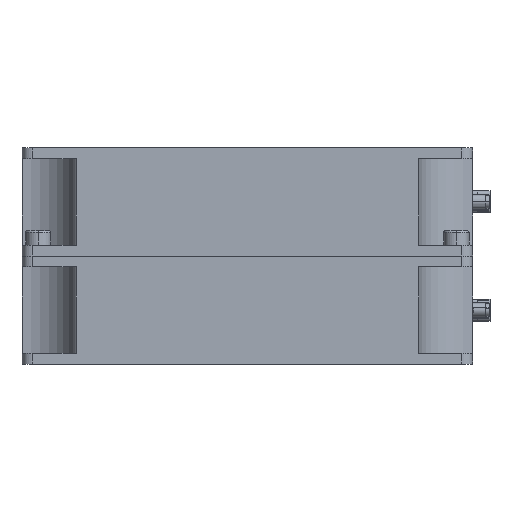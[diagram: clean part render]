
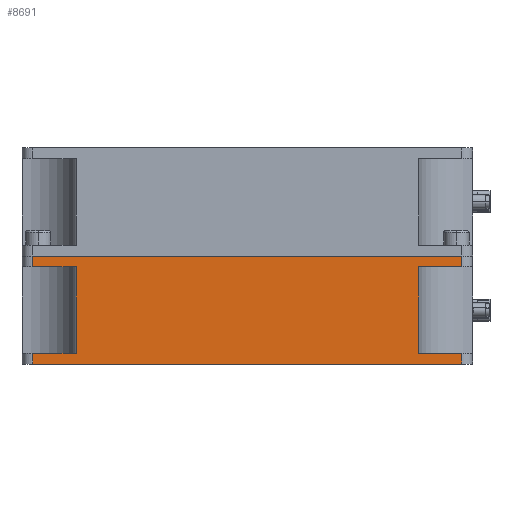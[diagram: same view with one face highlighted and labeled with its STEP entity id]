
A CAD part, left-side view. The second image highlights one B-rep face of the part: STEP entity #8691.
In plain terms, the highlighted planar face has unit normal (-1, 0, 0).
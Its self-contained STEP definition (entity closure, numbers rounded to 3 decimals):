
#487 = CARTESIAN_POINT ( 'NONE',  ( -103.713, 72.841, 212. ) ) ;
#632 = LINE ( 'NONE', #24099, #50106 ) ;
#804 = VERTEX_POINT ( 'NONE', #21298 ) ;
#1732 = DIRECTION ( 'NONE',  ( 0., 0., 1. ) ) ;
#2311 = VERTEX_POINT ( 'NONE', #12026 ) ;
#3049 = VECTOR ( 'NONE', #21292, 1000. ) ;
#5161 = VECTOR ( 'NONE', #10141, 1000. ) ;
#5215 = DIRECTION ( 'NONE',  ( 0., 0., 1. ) ) ;
#5507 = DIRECTION ( 'NONE',  ( 0., 0., -1. ) ) ;
#5645 = EDGE_CURVE ( 'NONE', #22236, #37799, #22446, .T. ) ;
#5823 = VERTEX_POINT ( 'NONE', #45613 ) ;
#6645 = LINE ( 'NONE', #59125, #44903 ) ;
#7604 = EDGE_CURVE ( 'NONE', #44836, #18496, #29730, .T. ) ;
#7877 = CARTESIAN_POINT ( 'NONE',  ( -103.713, 72.841, 185. ) ) ;
#8372 = DIRECTION ( 'NONE',  ( 0., 0., 1. ) ) ;
#8603 = AXIS2_PLACEMENT_3D ( 'NONE', #32708, #42376, #13643 ) ;
#8691 = ADVANCED_FACE ( 'NONE', ( #16852 ), #61396, .F. ) ;
#8920 = EDGE_CURVE ( 'NONE', #12915, #804, #44609, .T. ) ;
#9696 = VECTOR ( 'NONE', #20241, 1000. ) ;
#10141 = DIRECTION ( 'NONE',  ( 0., -1., 0. ) ) ;
#10238 = EDGE_CURVE ( 'NONE', #57442, #44836, #28712, .T. ) ;
#12026 = CARTESIAN_POINT ( 'NONE',  ( -103.713, -49.159, 212. ) ) ;
#12915 = VERTEX_POINT ( 'NONE', #38896 ) ;
#13643 = DIRECTION ( 'NONE',  ( 0., 0., -1. ) ) ;
#13760 = EDGE_CURVE ( 'NONE', #5823, #52613, #35132, .T. ) ;
#15826 = LINE ( 'NONE', #25911, #3049 ) ;
#16147 = VECTOR ( 'NONE', #8372, 1000. ) ;
#16331 = ORIENTED_EDGE ( 'NONE', *, *, #40210, .T. ) ;
#16852 = FACE_OUTER_BOUND ( 'NONE', #45323, .T. ) ;
#16970 = VECTOR ( 'NONE', #55555, 1000. ) ;
#17752 = VERTEX_POINT ( 'NONE', #54553 ) ;
#18461 = ORIENTED_EDGE ( 'NONE', *, *, #7604, .T. ) ;
#18496 = VERTEX_POINT ( 'NONE', #32888 ) ;
#19345 = VECTOR ( 'NONE', #61726, 1000. ) ;
#20241 = DIRECTION ( 'NONE',  ( 0., 1., 0. ) ) ;
#21292 = DIRECTION ( 'NONE',  ( 0., 0., -1. ) ) ;
#21298 = CARTESIAN_POINT ( 'NONE',  ( -103.713, 57.841, 212. ) ) ;
#21434 = LINE ( 'NONE', #7877, #24459 ) ;
#22236 = VERTEX_POINT ( 'NONE', #39354 ) ;
#22446 = LINE ( 'NONE', #58381, #9696 ) ;
#24099 = CARTESIAN_POINT ( 'NONE',  ( -103.713, -37.159, 200. ) ) ;
#24459 = VECTOR ( 'NONE', #36610, 1000. ) ;
#25911 = CARTESIAN_POINT ( 'NONE',  ( -103.713, 57.841, 200. ) ) ;
#26443 = EDGE_CURVE ( 'NONE', #804, #57442, #15826, .T. ) ;
#26946 = CARTESIAN_POINT ( 'NONE',  ( -103.713, -49.159, 215. ) ) ;
#27994 = CARTESIAN_POINT ( 'NONE',  ( -103.713, 72.841, 215. ) ) ;
#28299 = EDGE_CURVE ( 'NONE', #5823, #12915, #32965, .T. ) ;
#28712 = LINE ( 'NONE', #51604, #38465 ) ;
#28759 = ORIENTED_EDGE ( 'NONE', *, *, #51992, .T. ) ;
#29150 = LINE ( 'NONE', #487, #5161 ) ;
#29681 = ORIENTED_EDGE ( 'NONE', *, *, #61647, .T. ) ;
#29730 = LINE ( 'NONE', #50718, #16970 ) ;
#30383 = LINE ( 'NONE', #55955, #16147 ) ;
#30736 = ORIENTED_EDGE ( 'NONE', *, *, #10238, .T. ) ;
#32061 = ORIENTED_EDGE ( 'NONE', *, *, #54002, .T. ) ;
#32708 = CARTESIAN_POINT ( 'NONE',  ( -103.713, 72.841, 215. ) ) ;
#32888 = CARTESIAN_POINT ( 'NONE',  ( -103.713, 69.841, 185. ) ) ;
#32965 = LINE ( 'NONE', #39055, #44230 ) ;
#33229 = ORIENTED_EDGE ( 'NONE', *, *, #8920, .T. ) ;
#35132 = LINE ( 'NONE', #27994, #19345 ) ;
#35594 = DIRECTION ( 'NONE',  ( 0., -1., 0. ) ) ;
#36262 = ORIENTED_EDGE ( 'NONE', *, *, #26443, .T. ) ;
#36610 = DIRECTION ( 'NONE',  ( 0., -1., 0. ) ) ;
#37799 = VERTEX_POINT ( 'NONE', #61498 ) ;
#38465 = VECTOR ( 'NONE', #46810, 1000. ) ;
#38896 = CARTESIAN_POINT ( 'NONE',  ( -103.713, 69.841, 212. ) ) ;
#39055 = CARTESIAN_POINT ( 'NONE',  ( -103.713, 69.841, 215. ) ) ;
#39354 = CARTESIAN_POINT ( 'NONE',  ( -103.713, -49.159, 188. ) ) ;
#40210 = EDGE_CURVE ( 'NONE', #37799, #17752, #632, .T. ) ;
#42376 = DIRECTION ( 'NONE',  ( 1., 0., 0. ) ) ;
#44230 = VECTOR ( 'NONE', #5507, 1000. ) ;
#44609 = LINE ( 'NONE', #49624, #57324 ) ;
#44836 = VERTEX_POINT ( 'NONE', #45452 ) ;
#44903 = VECTOR ( 'NONE', #1732, 1000. ) ;
#45323 = EDGE_LOOP ( 'NONE', ( #32061, #59968, #47676, #16331, #29681, #28759, #50085, #48260, #33229, #36262, #30736, #18461 ) ) ;
#45452 = CARTESIAN_POINT ( 'NONE',  ( -103.713, 69.841, 188. ) ) ;
#45613 = CARTESIAN_POINT ( 'NONE',  ( -103.713, 69.841, 215. ) ) ;
#46401 = EDGE_CURVE ( 'NONE', #48508, #22236, #30383, .T. ) ;
#46810 = DIRECTION ( 'NONE',  ( 0., 1., 0. ) ) ;
#47676 = ORIENTED_EDGE ( 'NONE', *, *, #5645, .T. ) ;
#48260 = ORIENTED_EDGE ( 'NONE', *, *, #28299, .T. ) ;
#48508 = VERTEX_POINT ( 'NONE', #59251 ) ;
#49624 = CARTESIAN_POINT ( 'NONE',  ( -103.713, 72.841, 212. ) ) ;
#50085 = ORIENTED_EDGE ( 'NONE', *, *, #13760, .F. ) ;
#50106 = VECTOR ( 'NONE', #5215, 1000. ) ;
#50718 = CARTESIAN_POINT ( 'NONE',  ( -103.713, 69.841, 215. ) ) ;
#51604 = CARTESIAN_POINT ( 'NONE',  ( -103.713, 72.841, 188. ) ) ;
#51992 = EDGE_CURVE ( 'NONE', #2311, #52613, #6645, .T. ) ;
#52613 = VERTEX_POINT ( 'NONE', #26946 ) ;
#54002 = EDGE_CURVE ( 'NONE', #18496, #48508, #21434, .T. ) ;
#54553 = CARTESIAN_POINT ( 'NONE',  ( -103.713, -37.159, 212. ) ) ;
#55555 = DIRECTION ( 'NONE',  ( 0., 0., -1. ) ) ;
#55955 = CARTESIAN_POINT ( 'NONE',  ( -103.713, -49.159, 215. ) ) ;
#57324 = VECTOR ( 'NONE', #35594, 1000. ) ;
#57442 = VERTEX_POINT ( 'NONE', #59818 ) ;
#58381 = CARTESIAN_POINT ( 'NONE',  ( -103.713, 72.841, 188. ) ) ;
#59125 = CARTESIAN_POINT ( 'NONE',  ( -103.713, -49.159, 215. ) ) ;
#59251 = CARTESIAN_POINT ( 'NONE',  ( -103.713, -49.159, 185. ) ) ;
#59818 = CARTESIAN_POINT ( 'NONE',  ( -103.713, 57.841, 188. ) ) ;
#59968 = ORIENTED_EDGE ( 'NONE', *, *, #46401, .T. ) ;
#61396 = PLANE ( 'NONE',  #8603 ) ;
#61498 = CARTESIAN_POINT ( 'NONE',  ( -103.713, -37.159, 188. ) ) ;
#61647 = EDGE_CURVE ( 'NONE', #17752, #2311, #29150, .T. ) ;
#61726 = DIRECTION ( 'NONE',  ( 0., -1., 0. ) ) ;
